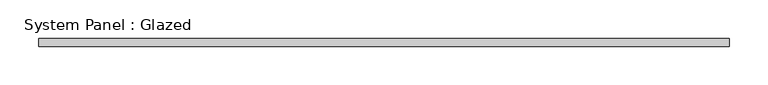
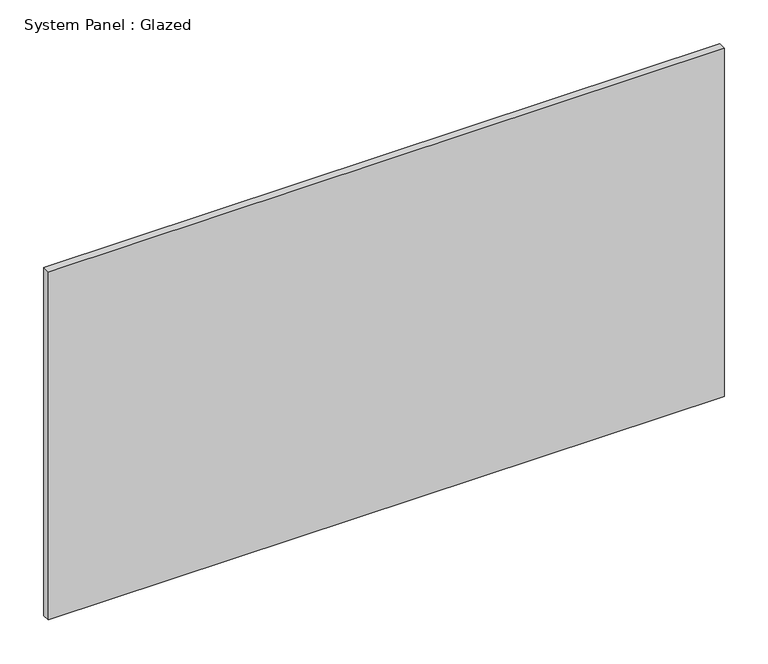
"""IFC4 building model written with IfcOpenShell, lengths in millimetres: plate geometry, System Panel : Glazed."""

from ifc_helpers import new_model, si_unit, origin, origin_with_axes, place, context, project, spatial, polyline, outline, extrude, source, transform, mapped, element, save


def system_panel_glazed_fd2ea701(model_context):
    return source(origin(), model_context, "Body", "SweptSolid", [
        extrude(outline(polyline([(445.0715535, -5.0), (-445.0715535, -5.0), (-445.0715535, 5.0), (445.0715535, 5.0), (445.0715535, -5.0)])), origin_with_axes(), (0.0, 0.0, 1.0), 485.0),
    ])


if __name__ == "__main__":
    model = new_model("IFC4")
    model_context = context("Model", 3, world=origin())
    ifc_project = project(units=[si_unit("LENGTHUNIT", "METRE", prefix="MILLI")], contexts=[model_context])
    site = spatial("IfcSite", under=ifc_project)
    building = spatial("IfcBuilding", under=site)
    placement = place(None, origin())
    system_panel_glazed_shape = system_panel_glazed_fd2ea701(model_context)
    element("IfcPlate", 1, ObjectType="System Panel : Glazed", at=placement, inside=building, context=model_context, shape_type="MappedRepresentation", body=[
        mapped(system_panel_glazed_shape, transform((0.0, 0.0, 0.0), x_axis=(1.0, 0.0, 0.0), y_axis=(0.0, 1.0, 0.0), z_axis=(0.0, 0.0, 1.0))),
    ])
    save(model, "model.ifc")
